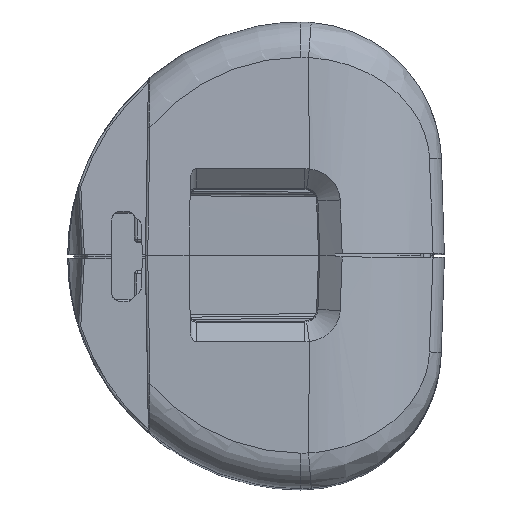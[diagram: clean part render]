
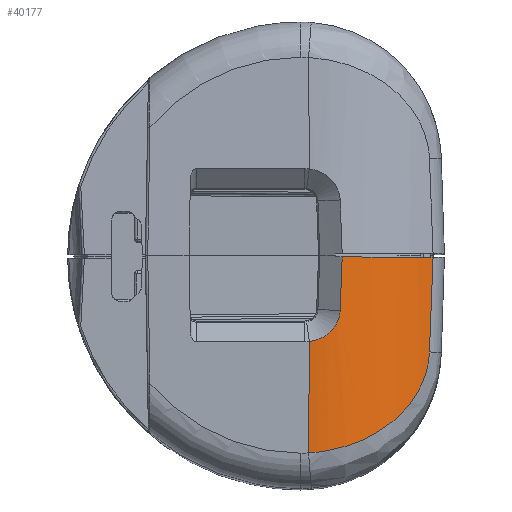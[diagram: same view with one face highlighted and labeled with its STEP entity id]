
A CAD part, top view. The second image highlights one B-rep face of the part: STEP entity #40177.
In plain terms, the highlighted cylindrical face has radius 15 mm (diameter 30 mm), a partial arc.
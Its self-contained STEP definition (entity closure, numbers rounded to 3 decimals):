
#9879=DIRECTION('',(-0.007,-1.,-0.017));
#9880=VECTOR('',#9879,9.309);
#9881=CARTESIAN_POINT('',(-11.031,-7.221,
-0.126));
#9882=LINE('',#9881,#9880);
#11716=CARTESIAN_POINT('',(-0.692,-0.15,
-4.087));
#11724=CARTESIAN_POINT('',(-0.992,-8.082,
-4.002));
#11725=CARTESIAN_POINT('',(-0.959,-7.201,
-4.011));
#11726=CARTESIAN_POINT('',(-0.892,-5.438,
-4.03));
#11727=CARTESIAN_POINT('',(-0.792,-2.794,
-4.059));
#11728=CARTESIAN_POINT('',(-0.725,-1.031,
-4.078));
#11729=CARTESIAN_POINT('',(-0.692,-0.15,
-4.087));
#11754=CARTESIAN_POINT('',(-11.031,-7.221,
-0.126));
#11755=CARTESIAN_POINT('',(-10.783,-7.189,
-0.125));
#11756=CARTESIAN_POINT('',(-10.345,-7.075,
-0.135));
#11757=CARTESIAN_POINT('',(-9.842,-6.835,
-0.164));
#11758=CARTESIAN_POINT('',(-9.508,-6.605,
-0.192));
#11759=CARTESIAN_POINT('',(-9.266,-6.393,
-0.215));
#11760=CARTESIAN_POINT('',(-9.093,-6.207,
-0.233));
#11761=CARTESIAN_POINT('',(-8.968,-6.051,
-0.247));
#11762=CARTESIAN_POINT('',(-8.865,-5.898,
-0.259));
#11763=CARTESIAN_POINT('',(-8.824,-5.841,
-0.264));
#11764=CARTESIAN_POINT('',(-8.653,-5.514,
-0.284));
#11765=CARTESIAN_POINT('',(-8.582,-5.311,
-0.292));
#11766=CARTESIAN_POINT('',(-8.533,-5.143,
-0.297));
#11767=CARTESIAN_POINT('',(-8.508,-5.031,
-0.299));
#11768=CARTESIAN_POINT('',(-8.482,-4.892,
-0.301));
#11769=CARTESIAN_POINT('',(-8.46,-4.711,
-0.301));
#11770=CARTESIAN_POINT('',(-8.462,-4.646,
-0.3));
#11771=CARTESIAN_POINT('',(-8.458,-4.622,
-0.3));
#11773=CARTESIAN_POINT('',(-8.458,-4.622,
-0.3));
#11774=CARTESIAN_POINT('',(-8.402,-3.129,
-0.282));
#11775=CARTESIAN_POINT('',(-8.346,-1.639,
-0.264));
#11776=CARTESIAN_POINT('',(-8.289,-0.15,
-0.246));
#11778=CARTESIAN_POINT('',(-8.289,-0.15,
-0.246));
#11779=CARTESIAN_POINT('',(-7.577,-0.15,
-0.376));
#11780=CARTESIAN_POINT('',(-6.187,-0.15,
-0.735));
#11781=CARTESIAN_POINT('',(-4.189,-0.15,
-1.57));
#11782=CARTESIAN_POINT('',(-2.332,-0.15,
-2.684));
#11783=CARTESIAN_POINT('',(-1.219,-0.15,
-3.591));
#11784=CARTESIAN_POINT('',(-0.692,-0.15,
-4.087));
#11786=CARTESIAN_POINT('',(-0.992,-8.082,
-4.002));
#11787=CARTESIAN_POINT('',(-0.992,-8.082,
-4.002));
#11788=CARTESIAN_POINT('',(-1.003,-8.37,
-3.999));
#11789=CARTESIAN_POINT('',(-1.063,-8.965,
-3.96));
#11790=CARTESIAN_POINT('',(-1.272,-9.875,
-3.797));
#11791=CARTESIAN_POINT('',(-1.63,-10.833,
-3.518));
#11792=CARTESIAN_POINT('',(-2.167,-11.823,
-3.122));
#11793=CARTESIAN_POINT('',(-2.894,-12.799,
-2.636));
#11794=CARTESIAN_POINT('',(-3.791,-13.705,
-2.113));
#11795=CARTESIAN_POINT('',(-4.822,-14.502,
-1.605));
#11796=CARTESIAN_POINT('',(-5.953,-15.173,
-1.153));
#11797=CARTESIAN_POINT('',(-7.162,-15.715,
-0.78));
#11798=CARTESIAN_POINT('',(-8.434,-16.126,
-0.5));
#11799=CARTESIAN_POINT('',(-9.752,-16.406,
-0.327));
#11800=CARTESIAN_POINT('',(-10.651,-16.503,
-0.288));
#11801=CARTESIAN_POINT('',(-11.098,-16.528,
-0.289));
#15545=VERTEX_POINT('',#11716);
#15546=VERTEX_POINT('',#11778);
#16141=VERTEX_POINT('',#11773);
#16145=VERTEX_POINT('',#11754);
#16146=VERTEX_POINT('',#11724);
#16147=VERTEX_POINT('',#11801);
#40164=CARTESIAN_POINT('',(-11.628,-89.528,
-16.565));
#40165=DIRECTION('',(0.007,1.,0.017));
#40166=DIRECTION('',(0.,-0.017,1.));
#40167=AXIS2_PLACEMENT_3D('',#40164,#40165,#40166);
#40168=CYLINDRICAL_SURFACE('',#40167,15.);
#40169=ORIENTED_EDGE('',*,*,#36052,.T.);
#40170=ORIENTED_EDGE('',*,*,#31947,.T.);
#40171=ORIENTED_EDGE('',*,*,#23172,.T.);
#40172=ORIENTED_EDGE('',*,*,#40082,.F.);
#40173=ORIENTED_EDGE('',*,*,#40158,.T.);
#40174=ORIENTED_EDGE('',*,*,#36571,.F.);
#40175=EDGE_LOOP('',(#40169,#40170,#40171,#40172,#40173,#40174));
#40176=FACE_OUTER_BOUND('',#40175,.F.);
#40177=ADVANCED_FACE('',(#40176),#40168,.T.);
#11730=B_SPLINE_CURVE_WITH_KNOTS('',3,(#11724,#11725,#11726,#11727,#11728,
#11729),.UNSPECIFIED.,.F.,.F.,(4,1,1,4),(0.,0.333,
0.667,1.),.UNSPECIFIED.);
#11772=B_SPLINE_CURVE_WITH_KNOTS('',3,(#11754,#11755,#11756,#11757,#11758,
#11759,#11760,#11761,#11762,#11763,#11764,#11765,#11766,#11767,#11768,#11769,
#11770,#11771),.UNSPECIFIED.,.F.,.F.,(4,1,1,1,1,1,1,1,1,1,1,1,1,1,1,4),(0.,
0.067,0.133,0.2,0.267,0.333,
0.4,0.467,0.533,0.6,0.667,
0.733,0.8,0.867,0.933,1.),
.UNSPECIFIED.);
#11777=B_SPLINE_CURVE_WITH_KNOTS('',3,(#11773,#11774,#11775,#11776),
.UNSPECIFIED.,.F.,.F.,(4,4),(0.,1.),.UNSPECIFIED.);
#11785=B_SPLINE_CURVE_WITH_KNOTS('',3,(#11778,#11779,#11780,#11781,#11782,
#11783,#11784),.UNSPECIFIED.,.F.,.F.,(4,1,1,1,4),(0.,0.25,0.5,0.75,
1.),.UNSPECIFIED.);
#11802=B_SPLINE_CURVE_WITH_KNOTS('',3,(#11786,#11787,#11788,#11789,#11790,
#11791,#11792,#11793,#11794,#11795,#11796,#11797,#11798,#11799,#11800,#11801),
.UNSPECIFIED.,.F.,.F.,(4,1,1,1,1,1,1,1,1,1,1,1,1,4),(0.,0.,
0.063,0.131,0.205,0.289,
0.38,0.473,0.565,0.655,
0.743,0.829,0.915,1.),.UNSPECIFIED.);
#23172=EDGE_CURVE('',#15546,#15545,#11785,.T.);
#31947=EDGE_CURVE('',#16141,#15546,#11777,.T.);
#36052=EDGE_CURVE('',#16145,#16141,#11772,.T.);
#36571=EDGE_CURVE('',#16145,#16147,#9882,.T.);
#40082=EDGE_CURVE('',#16146,#15545,#11730,.T.);
#40158=EDGE_CURVE('',#16146,#16147,#11802,.T.);
